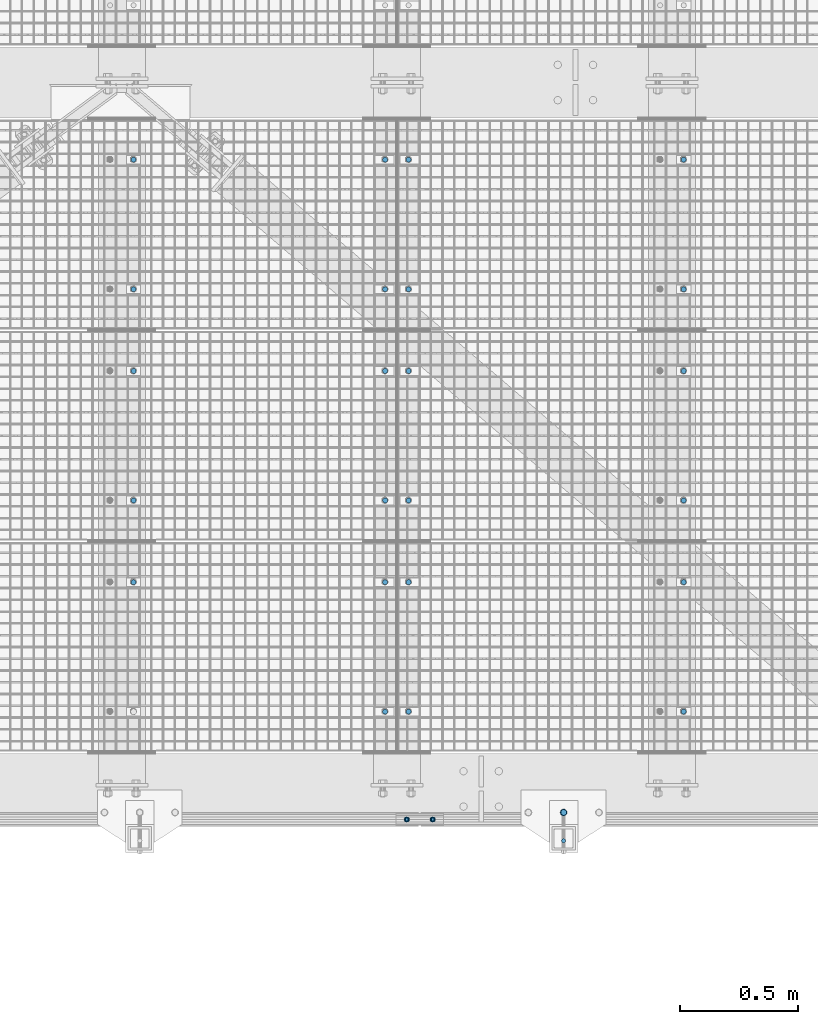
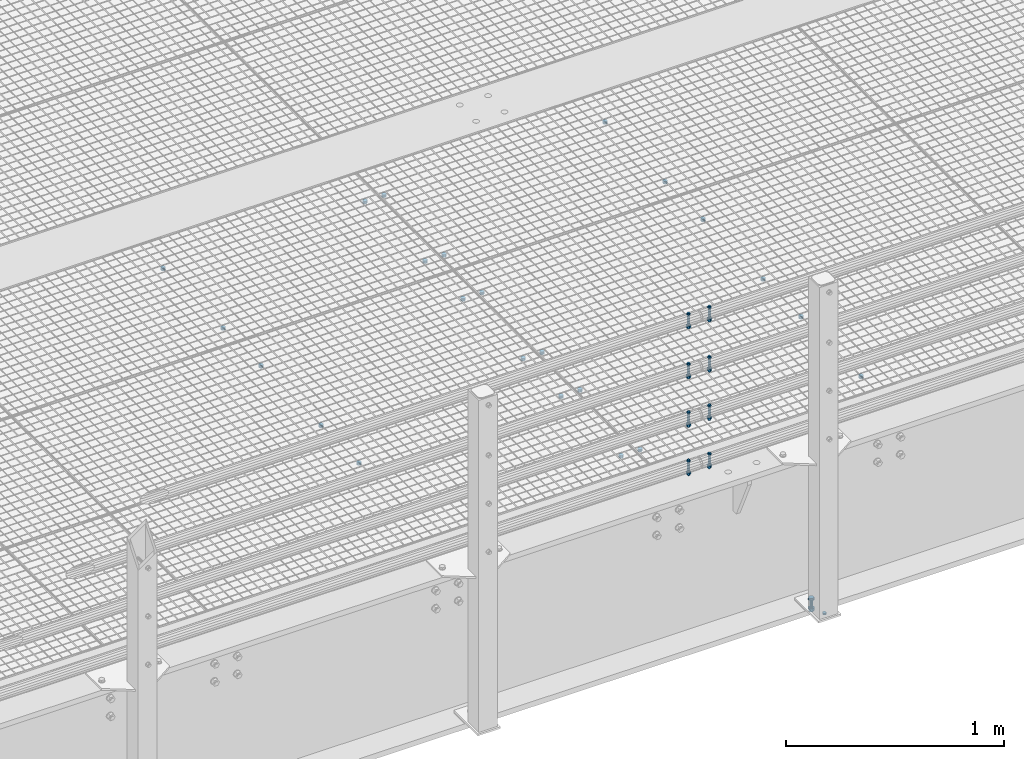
# One storey, part 63 of 1530: 33 mechanical fasteners.
"""IFC2X3 building model written with IfcOpenShell, lengths in millimetres."""

from ifc_helpers import new_model, si_unit, frame, origin_with_axes, place, context, subcontext, project, spatial, faceted_brep, source, transform, mapped, material, type_object, element, save


model = new_model("IFC2X3")

# Units and contexts
model_context = context("Model", 3, precision=1e-05, world=origin_with_axes())
body_context = subcontext(model_context, "Body", "Model", "MODEL_VIEW")
ifc_project = project(units=[si_unit("LENGTHUNIT", "METRE", prefix="MILLI"), si_unit("AREAUNIT", "SQUARE_METRE"), si_unit("VOLUMEUNIT", "CUBIC_METRE"), si_unit("MASSUNIT", "GRAM", prefix="KILO"), si_unit("TIMEUNIT", "SECOND"), si_unit("PLANEANGLEUNIT", "RADIAN"), si_unit("SOLIDANGLEUNIT", "STERADIAN"), si_unit("THERMODYNAMICTEMPERATUREUNIT", "DEGREE_CELSIUS"), si_unit("LUMINOUSINTENSITYUNIT", "LUMEN")], contexts=[model_context])

# Site, building, storey
site_placement = place(None, origin_with_axes())
site = spatial("IfcSite", under=ifc_project, at=site_placement, Name="Brattvåg", CompositionType="ELEMENT")
building_placement = place(site_placement, origin_with_axes())
building = spatial("IfcBuilding", under=site, at=building_placement, Name="Undefined", CompositionType="ELEMENT")
storey_placement = place(building_placement, origin_with_axes())
storey = spatial("IfcBuildingStorey", under=building, at=storey_placement, Name="Undefined", CompositionType="ELEMENT", Elevation=0.0)

# Mechanical fasteners
ifc_material = material(Name="8")
mechanical_fastener_type = type_object("IfcMechanicalFastenerType", Name="Bolt assembly")
shared_shape_1 = source(origin_with_axes(), body_context, "Body", "Brep", [
    faceted_brep([(11.0, -4.99999999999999, 0.0), (9.52627944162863, -4.99999999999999, 5.50000000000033), (5.49999999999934, -4.99999999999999, 9.5262794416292), (-1.13996957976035e-12, -4.99999999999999, 11.0), (-5.50000000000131, -4.99999999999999, 9.52627944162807), (-9.52627944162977, -4.99999999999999, 5.49999999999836), (-11.0, -4.99999999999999, -2.27993915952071e-12), (-9.5262794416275, -4.99999999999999, -5.5000000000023), (-5.49999999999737, -4.99999999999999, -9.52627944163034), (3.40769628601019e-12, -4.99999999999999, -11.0), (5.50000000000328, -4.99999999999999, -9.52627944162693), (9.52627944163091, -4.99999999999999, -5.49999999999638), (9.52627944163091, 10.1, -5.49999999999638), (5.50000000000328, 10.1, -9.52627944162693), (3.40769628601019e-12, 10.1, -11.0), (-5.49999999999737, 10.1, -9.52627944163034), (-9.5262794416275, 10.1, -5.5000000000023), (-11.0, 10.1, -2.27993915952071e-12), (-9.52627944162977, 10.1, 5.49999999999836), (-5.50000000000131, 10.1, 9.52627944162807), (-1.13996957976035e-12, 10.1, 11.0), (5.49999999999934, 10.1, 9.5262794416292), (9.52627944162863, 10.1, 5.50000000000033), (11.0, 10.1, 0.0)], [[[0, 1, 2, 3, 4, 5, 6, 7, 8, 9, 10, 11]], [[12, 13, 14, 15, 16, 17, 18, 19, 20, 21, 22, 23]], [[0, 23, 22, 1]], [[1, 22, 21, 2]], [[2, 21, 20, 3]], [[3, 20, 19, 4]], [[4, 19, 18, 5]], [[5, 18, 17, 6]], [[6, 17, 16, 7]], [[7, 16, 15, 8]], [[8, 15, 14, 9]], [[9, 14, 13, 10]], [[10, 13, 12, 11]], [[11, 12, 23, 0]]]),
])
for number, where, z_axis, x_axis, name in (
    (1, (5292.00477935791, 2121.98931152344, -35.0), (0.0, 1.0, 0.0), (1.0, 0.0, 0.0), "Bolt assembly"),
    (2, (5292.00477935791, 2671.99411010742, -35.0), (0.0, 1.0, 0.0), (1.0, 0.0, 0.0), "Bolt assembly"),
    (3, (6460.01456069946, 2671.99565124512, -35.0), (0.0, -1.0, 0.0), (-1.0, 1.99999855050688e-09, 0.0), "Bolt assembly"),
    (4, (6460.01192543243, 2121.99, -35.0), (0.0, -1.0, 0.0), (-1.0, 1.99999855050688e-09, 0.0), "Bolt assembly"),
    (5, (5292.00477935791, 1224.98931152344, -35.0), (0.0, 1.0, 0.0), (1.0, 0.0, 0.0), "Bolt assembly"),
    (6, (5292.00477935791, 1774.99411010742, -35.0), (0.0, 1.0, 0.0), (1.0, 0.0, 0.0), "Bolt assembly"),
    (7, (6460.01456069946, 1774.99565124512, -35.0), (0.0, -1.0, 0.0), (-1.0, 1.99999855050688e-09, 0.0), "Bolt assembly"),
    (8, (6460.01192543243, 1224.99, -35.0), (0.0, -1.0, 0.0), (-1.0, 1.99999855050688e-09, 0.0), "Bolt assembly"),
    (9, (5292.00477935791, 327.989311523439, -35.0), (0.0, 1.0, 0.0), (1.0, 0.0, 0.0), "Bolt assembly"),
    (10, (5292.00477935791, 877.994110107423, -35.0), (0.0, 1.0, 0.0), (1.0, 0.0, 0.0), "Bolt assembly"),
    (11, (6460.01456069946, 877.995651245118, -35.0), (0.0, -1.0, 0.0), (-1.0, 1.99999855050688e-09, 0.0), "Bolt assembly"),
    (12, (6460.01192543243, 327.99, -35.0), (0.0, -1.0, 0.0), (-1.0, 1.99999855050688e-09, 0.0), "Bolt assembly"),
    (13, (5192.01487731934, 2671.99411010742, -35.0), (0.0, -1.0, 0.0), (-1.0, 1.99999855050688e-09, 0.0), "Bolt assembly"),
    (14, (5192.01487731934, 2121.9904864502, -35.0), (0.0, -1.0, 0.0), (-1.0, 1.99999855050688e-09, 0.0), "Bolt assembly"),
    (15, (4124.01456069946, 2671.99565124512, -35.0), (0.0, -1.0, 0.0), (-1.0, 1.99999855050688e-09, 0.0), "Bolt assembly"),
    (16, (4124.01192543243, 2121.99, -35.0), (0.0, -1.0, 0.0), (-1.0, 1.99999855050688e-09, 0.0), "Bolt assembly"),
    (17, (5192.01487731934, 1774.99411010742, -35.0), (0.0, -1.0, 0.0), (-1.0, 1.99999855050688e-09, 0.0), "Bolt assembly"),
    (18, (5192.01487731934, 1224.9904864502, -35.0), (0.0, -1.0, 0.0), (-1.0, 1.99999855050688e-09, 0.0), "Bolt assembly"),
    (19, (4124.01456069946, 1774.99565124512, -35.0), (0.0, -1.0, 0.0), (-1.0, 1.99999855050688e-09, 0.0), "Bolt assembly"),
    (20, (4124.01192543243, 1224.99, -35.0), (0.0, -1.0, 0.0), (-1.0, 1.99999855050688e-09, 0.0), "Bolt assembly"),
    (21, (5192.01487731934, 877.994110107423, -35.0), (0.0, -1.0, 0.0), (-1.0, 1.99999855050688e-09, 0.0), "Bolt assembly"),
    (22, (5192.01487731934, 327.990486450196, -35.0), (0.0, -1.0, 0.0), (-1.0, 1.99999855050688e-09, 0.0), "Bolt assembly"),
    (23, (4124.01456069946, 877.995651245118, -35.0), (0.0, -1.0, 0.0), (-1.0, 1.99999855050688e-09, 0.0), "Bolt assembly"),
):
    element("IfcMechanicalFastener", number, at=place(storey_placement, frame(where, z_axis=z_axis, x_axis=x_axis)), inside=storey, type_object=mechanical_fastener_type, material=ifc_material, Name=name, NominalDiameter=20.0, NominalLength=15.0, context=body_context, shape_type="MappedRepresentation", body=[
        mapped(shared_shape_1, transform((0.0, 0.0, 0.0))),
    ])
shared_shape_2 = source(origin_with_axes(), body_context, "Body", "Brep", [
    faceted_brep([(9.0, -0.000108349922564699, 0.0), (7.79422863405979, -0.000108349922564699, 4.50000000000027), (4.49999999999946, -0.000108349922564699, 7.79422863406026), (-9.3270238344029e-13, -0.000108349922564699, 9.0), (-4.50000000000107, -0.000108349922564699, 7.79422863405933), (-7.79422863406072, -0.000108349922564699, 4.49999999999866), (-9.0, -0.000108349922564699, -1.86540476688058e-12), (-7.79422863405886, -0.000108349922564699, -4.50000000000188), (-4.49999999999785, -0.000108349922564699, -7.79422863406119), (2.78811514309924e-12, -0.000108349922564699, -9.0), (4.50000000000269, -0.000108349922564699, -7.7942286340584), (7.79422863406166, -0.000108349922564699, -4.49999999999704), (7.79422863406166, 10.0998916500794, -4.49999999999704), (4.50000000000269, 10.0998916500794, -7.7942286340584), (2.78811514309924e-12, 10.0998916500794, -9.0), (-4.49999999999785, 10.0998916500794, -7.79422863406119), (-7.79422863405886, 10.0998916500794, -4.50000000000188), (-9.0, 10.0998916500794, -1.86540476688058e-12), (-7.79422863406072, 10.0998916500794, 4.49999999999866), (-4.50000000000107, 10.0998916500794, 7.79422863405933), (-9.3270238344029e-13, 10.0998916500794, 9.0), (4.49999999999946, 10.0998916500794, 7.79422863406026), (7.79422863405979, 10.0998916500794, 4.50000000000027), (9.0, 10.0998916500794, 0.0)], [[[0, 1, 2, 3, 4, 5, 6, 7, 8, 9, 10, 11]], [[12, 13, 14, 15, 16, 17, 18, 19, 20, 21, 22, 23]], [[0, 23, 22, 1]], [[1, 22, 21, 2]], [[2, 21, 20, 3]], [[3, 20, 19, 4]], [[4, 19, 18, 5]], [[5, 18, 17, 6]], [[6, 17, 16, 7]], [[7, 16, 15, 8]], [[8, 15, 14, 9]], [[9, 14, 13, 10]], [[10, 13, 12, 11]], [[11, 12, 23, 0]]]),
])
mechanical_fastener_1_placement = place(storey_placement, frame((5950.00016021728, -219.999950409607, -845.000278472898), z_axis=(-1.0, 1.99999855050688e-09, 0.0), x_axis=(0.0, 0.999999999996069, 2.80400000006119e-06)))
element("IfcMechanicalFastener", 24, at=mechanical_fastener_1_placement, inside=storey, type_object=mechanical_fastener_type, material=ifc_material, Name="Bolt assembly", NominalDiameter=16.0, NominalLength=10.0001087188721, context=body_context, shape_type="MappedRepresentation", body=[
    mapped(shared_shape_2, transform((0.0, 0.0, 0.0))),
])
shared_shape_3 = source(origin_with_axes(), body_context, "Body", "Brep", [
    faceted_brep([(6.49435320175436, -7.50000000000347, 0.0), (4.59220118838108, -7.50000000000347, 4.59220118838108), (3.97664443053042e-16, -7.50000000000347, 6.49435320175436), (-4.59220118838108, -7.50000000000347, 4.59220118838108), (-6.49435320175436, -7.50000000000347, 7.95328886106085e-16), (-4.59220118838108, -7.50000000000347, -4.59220118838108), (-1.19299332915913e-15, -7.50000000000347, -6.49435320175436), (4.59220118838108, -7.50000000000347, -4.59220118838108), (7.34846922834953, -3.46744855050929e-12, -7.34846922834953), (-1.90903542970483e-15, -3.46744855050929e-12, -10.3923048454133), (-7.34846922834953, -3.46744855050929e-12, -7.34846922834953), (-10.3923048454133, 3.46808519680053e-07, 1.27269028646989e-15), (-7.34846922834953, -3.46744855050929e-12, 7.34846922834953), (6.36345143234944e-16, -3.46744855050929e-12, 10.3923048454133), (7.34846922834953, -3.46744855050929e-12, 7.34846922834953), (10.3923048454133, 3.46808519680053e-07, 0.0), (6.0, 3.46808519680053e-07, 0.0), (5.19615242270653, 3.46808519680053e-07, 3.00000000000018), (2.99999999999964, 3.46808519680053e-07, 5.19615242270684), (-6.21801588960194e-13, 3.46808519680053e-07, 6.0), (-3.00000000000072, 3.46808519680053e-07, 5.19615242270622), (-5.19615242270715, 3.46808519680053e-07, 2.9999999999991), (-6.0, 3.46808519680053e-07, -1.24360317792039e-12), (-5.19615242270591, 3.46808519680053e-07, -3.00000000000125), (-2.99999999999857, 3.46808519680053e-07, -5.19615242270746), (1.85874342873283e-12, 3.46808519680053e-07, -6.0), (3.00000000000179, 3.46808519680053e-07, -5.1961524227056), (5.19615242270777, 3.46808519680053e-07, -2.99999999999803), (5.19615242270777, 79.9999999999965, -2.99999999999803), (3.00000000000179, 79.9999999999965, -5.1961524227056), (1.85874342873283e-12, 79.9999999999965, -6.0), (-2.99999999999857, 79.9999999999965, -5.19615242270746), (-5.19615242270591, 79.9999999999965, -3.00000000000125), (-6.0, 79.9999999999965, -1.24360317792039e-12), (-5.19615242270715, 79.9999999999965, 2.9999999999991), (-3.00000000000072, 79.9999999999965, 5.19615242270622), (-6.21801588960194e-13, 79.9999999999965, 6.0), (2.99999999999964, 79.9999999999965, 5.19615242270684), (5.19615242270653, 79.9999999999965, 3.00000000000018), (6.0, 79.9999999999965, 0.0), (12.0, 60.2988956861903, 0.0), (10.3923048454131, 60.2988956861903, 6.00000000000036), (5.99999999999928, 60.2988956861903, 10.3923048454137), (-1.24360317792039e-12, 60.2988956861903, 12.0), (-6.00000000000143, 60.2988956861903, 10.3923048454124), (-10.3923048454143, 60.2988956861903, 5.99999999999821), (-12.0, 60.2988956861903, -2.48720635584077e-12), (-10.3923048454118, 60.2988956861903, -6.00000000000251), (-5.99999999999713, 60.2988956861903, -10.3923048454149), (3.71748685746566e-12, 60.2988956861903, -12.0), (6.00000000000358, 60.2988956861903, -10.3923048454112), (10.3923048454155, 60.2988956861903, -5.99999999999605), (10.3923048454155, 62.7988956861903, -5.99999999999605), (6.00000000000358, 62.7988956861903, -10.3923048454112), (3.71748685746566e-12, 62.7988956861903, -12.0), (-5.99999999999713, 62.7988956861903, -10.3923048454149), (-10.3923048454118, 62.7988956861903, -6.00000000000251), (-12.0, 62.7988956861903, -2.48720635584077e-12), (-10.3923048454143, 62.7988956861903, 5.99999999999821), (-6.00000000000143, 62.7988956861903, 10.3923048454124), (-1.24360317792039e-12, 62.7988956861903, 12.0), (5.99999999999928, 62.7988956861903, 10.3923048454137), (10.3923048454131, 62.7988956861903, 6.00000000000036), (12.0, 62.7988956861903, 0.0), (10.9696551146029, 62.7988956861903, 0.0), (5.48482755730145, 62.7988956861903, 9.5), (-5.48482755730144, 62.7988956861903, 9.5), (-10.9696551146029, 62.7988956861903, 1.34339530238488e-15), (-5.48482755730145, 62.7988956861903, -9.5), (5.48482755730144, 62.7988956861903, -9.5), (5.48482755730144, 73.5988958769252, -9.5), (-5.48482755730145, 73.5988958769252, -9.5), (-10.9696551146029, 73.5988958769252, 1.34339530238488e-15), (-5.48482755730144, 73.5988958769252, 9.5), (5.48482755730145, 73.5988958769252, 9.5), (10.9696551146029, 73.5988958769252, 0.0)], [[[0, 1, 2, 3, 4, 5, 6, 7]], [[8, 9, 10, 11, 12, 13, 14, 15]], [[0, 15, 14, 1]], [[1, 14, 13, 2]], [[2, 13, 12, 3]], [[3, 12, 11, 4]], [[4, 11, 10, 5]], [[5, 10, 9, 6]], [[6, 9, 8, 7]], [[7, 8, 15, 0]], [[16, 17, 18, 19, 20, 21, 22, 23, 24, 25, 26, 27]], [[28, 29, 30, 31, 32, 33, 34, 35, 36, 37, 38, 39]], [[16, 39, 38, 17]], [[17, 38, 37, 18]], [[18, 37, 36, 19]], [[19, 36, 35, 20]], [[20, 35, 34, 21]], [[21, 34, 33, 22]], [[22, 33, 32, 23]], [[23, 32, 31, 24]], [[24, 31, 30, 25]], [[25, 30, 29, 26]], [[26, 29, 28, 27]], [[27, 28, 39, 16]], [[40, 41, 42, 43, 44, 45, 46, 47, 48, 49, 50, 51]], [[52, 53, 54, 55, 56, 57, 58, 59, 60, 61, 62, 63]], [[40, 63, 62, 41]], [[41, 62, 61, 42]], [[42, 61, 60, 43]], [[43, 60, 59, 44]], [[44, 59, 58, 45]], [[45, 58, 57, 46]], [[46, 57, 56, 47]], [[47, 56, 55, 48]], [[48, 55, 54, 49]], [[49, 54, 53, 50]], [[50, 53, 52, 51]], [[51, 52, 63, 40]], [[64, 65, 66, 67, 68, 69]], [[70, 71, 72, 73, 74, 75]], [[64, 75, 74, 65]], [[65, 74, 73, 66]], [[66, 73, 72, 67]], [[67, 72, 71, 68]], [[68, 71, 70, 69]], [[69, 70, 75, 64]]]),
    faceted_brep([(6.5, 0.100000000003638, 0.0), (5.62916512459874, 0.100000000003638, 3.25000000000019), (3.24999999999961, 0.100000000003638, 5.62916512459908), (-6.7361838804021e-13, 0.100000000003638, 6.5), (-3.25000000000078, 0.100000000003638, 5.6291651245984), (-5.62916512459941, 0.100000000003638, 3.24999999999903), (-6.5, 0.100000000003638, -1.34723677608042e-12), (-5.62916512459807, 0.100000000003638, -3.25000000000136), (-3.24999999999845, 0.100000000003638, -5.62916512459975), (2.01363871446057e-12, 0.100000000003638, -6.5), (3.25000000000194, 0.100000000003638, -5.62916512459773), (5.62916512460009, 0.100000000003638, -3.24999999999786), (5.62916512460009, 60.3988956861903, -3.24999999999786), (3.25000000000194, 60.3988956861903, -5.62916512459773), (2.01363871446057e-12, 60.3988956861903, -6.5), (-3.24999999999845, 60.3988956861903, -5.62916512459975), (-5.62916512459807, 60.3988956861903, -3.25000000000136), (-6.5, 60.3988956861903, -1.34723677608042e-12), (-5.62916512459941, 60.3988956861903, 3.24999999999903), (-3.25000000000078, 60.3988956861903, 5.6291651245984), (-6.7361838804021e-13, 60.3988956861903, 6.5), (3.24999999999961, 60.3988956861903, 5.62916512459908), (5.62916512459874, 60.3988956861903, 3.25000000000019), (6.5, 60.3988956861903, 0.0), (6.5, 4.25026510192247, 0.0), (5.62916512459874, 4.25026510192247, 3.25000000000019), (3.24999999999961, 4.25026510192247, 5.62916512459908), (-6.7361838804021e-13, 4.25026510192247, 6.5), (-3.25000000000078, 4.25026510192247, 5.6291651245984), (-5.62916512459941, 4.25026510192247, 3.24999999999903), (-6.5, 4.25026510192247, -1.34723677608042e-12), (-5.62916512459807, 4.25026510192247, -3.25000000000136), (-3.24999999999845, 4.25026510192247, -5.62916512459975), (2.01363871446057e-12, 4.25026510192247, -6.5), (3.25000000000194, 4.25026510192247, -5.62916512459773), (5.62916512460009, 4.25026510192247, -3.24999999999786), (5.62916512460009, 55.3491717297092, -3.24999999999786), (3.25000000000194, 55.3491717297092, -5.62916512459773), (2.01363871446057e-12, 55.3491717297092, -6.5), (-3.24999999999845, 55.3491717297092, -5.62916512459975), (-5.62916512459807, 55.3491717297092, -3.25000000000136), (-6.5, 55.3491717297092, -1.34723677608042e-12), (-5.62916512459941, 55.3491717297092, 3.24999999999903), (-3.25000000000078, 55.3491717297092, 5.6291651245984), (-6.7361838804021e-13, 55.3491717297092, 6.5), (3.24999999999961, 55.3491717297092, 5.62916512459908), (5.62916512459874, 55.3491717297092, 3.25000000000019), (6.5, 55.3491717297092, 0.0)], [[[0, 1, 2, 3, 4, 5, 6, 7, 8, 9, 10, 11]], [[12, 13, 14, 15, 16, 17, 18, 19, 20, 21, 22, 23]], [[0, 23, 22, 1]], [[1, 22, 21, 2]], [[2, 21, 20, 3]], [[3, 20, 19, 4]], [[4, 19, 18, 5]], [[5, 18, 17, 6]], [[6, 17, 16, 7]], [[7, 16, 15, 8]], [[8, 15, 14, 9]], [[9, 14, 13, 10]], [[10, 13, 12, 11]], [[11, 12, 23, 0]], [[24, 25, 26, 27, 28, 29, 30, 31, 32, 33, 34, 35]], [[36, 37, 38, 39, 40, 41, 42, 43, 44, 45, 46, 47]], [[24, 47, 46, 25]], [[25, 46, 45, 26]], [[26, 45, 44, 27]], [[27, 44, 43, 28]], [[28, 43, 42, 29]], [[29, 42, 41, 30]], [[30, 41, 40, 31]], [[31, 40, 39, 32]], [[32, 39, 38, 33]], [[33, 38, 37, 34]], [[34, 37, 36, 35]], [[35, 36, 47, 24]]]),
])
for number, where, z_axis, x_axis, name in (
    (25, (5284.00013732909, -129.849880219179, 179.7000579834), (-1.0, 1.99999855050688e-09, 0.0), (0.0, 0.999999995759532, -9.2091999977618e-05), "Bolt assembly"),
    (26, (5284.00013732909, -129.849880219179, 449.7000579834), (-1.0, 1.99999855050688e-09, 0.0), (0.0, 0.999999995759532, -9.2091999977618e-05), "Bolt assembly"),
    (27, (5284.00013732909, -129.849880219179, 719.7000579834), (-1.0, 1.99999855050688e-09, 0.0), (0.0, 0.999999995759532, -9.2091999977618e-05), "Bolt assembly"),
    (28, (5393.99986267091, -129.849880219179, 179.7000579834), (-1.0, 1.99999855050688e-09, 0.0), (0.0, 0.999999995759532, -9.2091999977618e-05), "Bolt assembly"),
    (29, (5393.99986267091, -129.849880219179, 449.7000579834), (-1.0, 1.99999855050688e-09, 0.0), (0.0, 0.999999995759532, -9.2091999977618e-05), "Bolt assembly"),
    (30, (5393.99986267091, -129.849880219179, 719.7000579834), (-1.0, 1.99999855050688e-09, 0.0), (0.0, 0.999999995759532, -9.2091999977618e-05), "Bolt assembly"),
    (31, (5284.00013732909, -129.849880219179, 999.7000579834), (-1.0, 1.99999855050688e-09, 0.0), (0.0, 0.999999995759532, -9.2091999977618e-05), "Bolt assembly"),
    (32, (5393.99986267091, -129.849880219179, 999.7000579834), (-1.0, 1.99999855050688e-09, 0.0), (0.0, 0.999999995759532, -9.2091999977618e-05), "Bolt assembly"),
):
    element("IfcMechanicalFastener", number, at=place(storey_placement, frame(where, z_axis=z_axis, x_axis=x_axis)), inside=storey, type_object=mechanical_fastener_type, material=ifc_material, Name=name, NominalDiameter=12.0, NominalLength=80.0, context=body_context, shape_type="MappedRepresentation", body=[
        mapped(shared_shape_3, transform((0.0, 0.0, 0.0))),
    ])
shared_shape_4 = source(origin_with_axes(), body_context, "Body", "Brep", [
    faceted_brep([(13.856406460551, -12.9998916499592, 0.0), (6.92820323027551, -12.9998916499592, 12.0), (-6.92820323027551, -12.9998916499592, 12.0), (-13.856406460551, -12.9998916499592, 1.69692038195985e-15), (-6.92820323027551, -12.9998916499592, -12.0), (6.9282032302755, -12.9998916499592, -12.0), (6.9282032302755, -2.99989164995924, -12.0), (-6.92820323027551, -2.99989164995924, -12.0), (-13.856406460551, -2.99989164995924, 1.69692038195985e-15), (-6.92820323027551, -2.99989164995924, 12.0), (6.92820323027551, -2.99989164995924, 12.0), (13.856406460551, -2.99989164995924, 0.0), (8.0, -2.99989164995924, 0.0), (6.92820323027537, -2.99989164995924, 4.00000000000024), (3.99999999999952, -2.99989164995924, 6.92820323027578), (-8.29068785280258e-13, -2.99989164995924, 8.0), (-4.00000000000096, -2.99989164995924, 6.92820323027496), (-6.9282032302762, -2.99989164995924, 3.99999999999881), (-8.0, -2.99989164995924, -1.65813757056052e-12), (-6.92820323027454, -2.99989164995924, -4.00000000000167), (-3.99999999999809, -2.99989164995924, -6.92820323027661), (2.47832457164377e-12, -2.99989164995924, -8.0), (4.00000000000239, -2.99989164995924, -6.92820323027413), (6.92820323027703, -2.99989164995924, -3.99999999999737), (6.92820323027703, 67.0001083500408, -3.99999999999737), (4.00000000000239, 67.0001083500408, -6.92820323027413), (2.47832457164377e-12, 67.0001083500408, -8.0), (-3.99999999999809, 67.0001083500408, -6.92820323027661), (-6.92820323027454, 67.0001083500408, -4.00000000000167), (-8.0, 67.0001083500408, -1.65813757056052e-12), (-6.9282032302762, 67.0001083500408, 3.99999999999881), (-4.00000000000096, 67.0001083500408, 6.92820323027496), (-8.29068785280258e-13, 67.0001083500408, 8.0), (3.99999999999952, 67.0001083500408, 6.92820323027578), (6.92820323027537, 67.0001083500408, 4.00000000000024), (8.0, 67.0001083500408, 0.0), (15.0, -2.99989164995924, 0.0), (12.9903810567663, -2.99989164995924, 7.50000000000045), (7.4999999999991, -2.99989164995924, 12.9903810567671), (-1.55450397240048e-12, -2.99989164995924, 15.0), (-7.50000000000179, -2.99989164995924, 12.9903810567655), (-12.9903810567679, -2.99989164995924, 7.49999999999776), (-15.0, -2.99989164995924, -3.10900794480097e-12), (-12.9903810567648, -2.99989164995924, -7.50000000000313), (-7.49999999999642, -2.99989164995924, -12.9903810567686), (4.64685857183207e-12, -2.99989164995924, -15.0), (7.50000000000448, -2.99989164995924, -12.990381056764), (12.9903810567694, -2.99989164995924, -7.49999999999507), (12.9903810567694, 0.000108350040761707, -7.49999999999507), (7.50000000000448, 0.000108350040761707, -12.990381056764), (4.64685857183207e-12, 0.000108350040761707, -15.0), (-7.49999999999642, 0.000108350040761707, -12.9903810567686), (-12.9903810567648, 0.000108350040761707, -7.50000000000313), (-15.0, 0.000108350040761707, -3.10900794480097e-12), (-12.9903810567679, 0.000108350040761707, 7.49999999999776), (-7.50000000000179, 0.000108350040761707, 12.9903810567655), (-1.55450397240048e-12, 0.000108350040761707, 15.0), (7.4999999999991, 0.000108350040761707, 12.9903810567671), (12.9903810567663, 0.000108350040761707, 7.50000000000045), (15.0, 0.000108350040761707, 0.0), (15.0, 45.0001982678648, 0.0), (12.9903810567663, 45.0001982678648, 7.50000000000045), (7.4999999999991, 45.0001982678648, 12.9903810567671), (-1.55450397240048e-12, 45.0001982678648, 15.0), (-7.50000000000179, 45.0001982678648, 12.9903810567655), (-12.9903810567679, 45.0001982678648, 7.49999999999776), (-15.0, 45.0001982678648, -3.10900794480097e-12), (-12.9903810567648, 45.0001982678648, -7.50000000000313), (-7.49999999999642, 45.0001982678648, -12.9903810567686), (4.64685857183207e-12, 45.0001982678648, -15.0), (7.50000000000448, 45.0001982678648, -12.990381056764), (12.9903810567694, 45.0001982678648, -7.49999999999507), (12.9903810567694, 48.0001982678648, -7.49999999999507), (7.50000000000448, 48.0001982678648, -12.990381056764), (4.64685857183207e-12, 48.0001982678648, -15.0), (-7.49999999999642, 48.0001982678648, -12.9903810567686), (-12.9903810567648, 48.0001982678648, -7.50000000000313), (-15.0, 48.0001982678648, -3.10900794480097e-12), (-12.9903810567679, 48.0001982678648, 7.49999999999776), (-7.50000000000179, 48.0001982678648, 12.9903810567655), (-1.55450397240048e-12, 48.0001982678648, 15.0), (7.4999999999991, 48.0001982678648, 12.9903810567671), (12.9903810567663, 48.0001982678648, 7.50000000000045), (15.0, 48.0001982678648, 0.0), (13.856406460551, 48.0001982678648, 0.0), (6.92820323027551, 48.0001982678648, 12.0), (-6.92820323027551, 48.0001982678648, 12.0), (-13.856406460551, 48.0001982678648, 1.69692038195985e-15), (-6.92820323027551, 48.0001982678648, -12.0), (6.9282032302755, 48.0001982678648, -12.0), (6.9282032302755, 62.8001984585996, -12.0), (-6.92820323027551, 62.8001984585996, -12.0), (-13.856406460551, 62.8001984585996, 1.69692038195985e-15), (-6.92820323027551, 62.8001984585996, 12.0), (6.92820323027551, 62.8001984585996, 12.0), (13.856406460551, 62.8001984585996, 0.0)], [[[0, 1, 2, 3, 4, 5]], [[6, 7, 8, 9, 10, 11]], [[0, 11, 10, 1]], [[1, 10, 9, 2]], [[2, 9, 8, 3]], [[3, 8, 7, 4]], [[4, 7, 6, 5]], [[5, 6, 11, 0]], [[12, 13, 14, 15, 16, 17, 18, 19, 20, 21, 22, 23]], [[24, 25, 26, 27, 28, 29, 30, 31, 32, 33, 34, 35]], [[12, 35, 34, 13]], [[13, 34, 33, 14]], [[14, 33, 32, 15]], [[15, 32, 31, 16]], [[16, 31, 30, 17]], [[17, 30, 29, 18]], [[18, 29, 28, 19]], [[19, 28, 27, 20]], [[20, 27, 26, 21]], [[21, 26, 25, 22]], [[22, 25, 24, 23]], [[23, 24, 35, 12]], [[36, 37, 38, 39, 40, 41, 42, 43, 44, 45, 46, 47]], [[48, 49, 50, 51, 52, 53, 54, 55, 56, 57, 58, 59]], [[36, 59, 58, 37]], [[37, 58, 57, 38]], [[38, 57, 56, 39]], [[39, 56, 55, 40]], [[40, 55, 54, 41]], [[41, 54, 53, 42]], [[42, 53, 52, 43]], [[43, 52, 51, 44]], [[44, 51, 50, 45]], [[45, 50, 49, 46]], [[46, 49, 48, 47]], [[47, 48, 59, 36]], [[60, 61, 62, 63, 64, 65, 66, 67, 68, 69, 70, 71]], [[72, 73, 74, 75, 76, 77, 78, 79, 80, 81, 82, 83]], [[60, 83, 82, 61]], [[61, 82, 81, 62]], [[62, 81, 80, 63]], [[63, 80, 79, 64]], [[64, 79, 78, 65]], [[65, 78, 77, 66]], [[66, 77, 76, 67]], [[67, 76, 75, 68]], [[68, 75, 74, 69]], [[69, 74, 73, 70]], [[70, 73, 72, 71]], [[71, 72, 83, 60]], [[84, 85, 86, 87, 88, 89]], [[90, 91, 92, 93, 94, 95]], [[84, 95, 94, 85]], [[85, 94, 93, 86]], [[86, 93, 92, 87]], [[87, 92, 91, 88]], [[88, 91, 90, 89]], [[89, 90, 95, 84]]]),
    faceted_brep([(9.0, 0.100108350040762, 0.0), (7.79422863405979, 0.100108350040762, 4.50000000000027), (4.49999999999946, 0.100108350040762, 7.79422863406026), (-9.3270238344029e-13, 0.100108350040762, 9.0), (-4.50000000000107, 0.100108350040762, 7.79422863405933), (-7.79422863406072, 0.100108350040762, 4.49999999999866), (-9.0, 0.100108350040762, -1.86540476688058e-12), (-7.79422863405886, 0.100108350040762, -4.50000000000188), (-4.49999999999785, 0.100108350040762, -7.79422863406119), (2.78811514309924e-12, 0.100108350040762, -9.0), (4.50000000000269, 0.100108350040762, -7.7942286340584), (7.79422863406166, 0.100108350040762, -4.49999999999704), (7.79422863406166, 10.10010835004, -4.49999999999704), (4.50000000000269, 10.10010835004, -7.7942286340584), (2.78811514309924e-12, 10.10010835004, -9.0), (-4.49999999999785, 10.10010835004, -7.79422863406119), (-7.79422863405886, 10.10010835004, -4.50000000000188), (-9.0, 10.10010835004, -1.86540476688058e-12), (-7.79422863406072, 10.10010835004, 4.49999999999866), (-4.50000000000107, 10.10010835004, 7.79422863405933), (-9.3270238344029e-13, 10.10010835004, 9.0), (4.49999999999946, 10.10010835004, 7.79422863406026), (7.79422863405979, 10.10010835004, 4.50000000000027), (9.0, 10.10010835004, 0.0), (9.0, 10.0002383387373, 0.0), (7.79422863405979, 10.0002383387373, 4.50000000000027), (4.49999999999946, 10.0002383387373, 7.79422863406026), (-9.3270238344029e-13, 10.0002383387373, 9.0), (-4.50000000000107, 10.0002383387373, 7.79422863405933), (-7.79422863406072, 10.0002383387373, 4.49999999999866), (-9.0, 10.0002383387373, -1.86540476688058e-12), (-7.79422863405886, 10.0002383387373, -4.50000000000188), (-4.49999999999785, 10.0002383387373, -7.79422863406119), (2.78811514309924e-12, 10.0002383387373, -9.0), (4.50000000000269, 10.0002383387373, -7.7942286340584), (7.79422863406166, 10.0002383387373, -4.49999999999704), (7.79422863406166, 15.000238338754, -4.49999999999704), (4.50000000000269, 15.000238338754, -7.7942286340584), (2.78811514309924e-12, 15.000238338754, -9.0), (-4.49999999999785, 15.000238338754, -7.79422863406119), (-7.79422863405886, 15.000238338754, -4.50000000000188), (-9.0, 15.000238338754, -1.86540476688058e-12), (-7.79422863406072, 15.000238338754, 4.49999999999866), (-4.50000000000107, 15.000238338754, 7.79422863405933), (-9.3270238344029e-13, 15.000238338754, 9.0), (4.49999999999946, 15.000238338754, 7.79422863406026), (7.79422863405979, 15.000238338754, 4.50000000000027), (9.0, 15.000238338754, 0.0), (9.0, 14.9001982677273, 0.0), (7.79422863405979, 14.9001982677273, 4.50000000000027), (4.49999999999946, 14.9001982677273, 7.79422863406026), (-9.3270238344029e-13, 14.9001982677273, 9.0), (-4.50000000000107, 14.9001982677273, 7.79422863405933), (-7.79422863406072, 14.9001982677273, 4.49999999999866), (-9.0, 14.9001982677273, -1.86540476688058e-12), (-7.79422863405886, 14.9001982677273, -4.50000000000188), (-4.49999999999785, 14.9001982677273, -7.79422863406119), (2.78811514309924e-12, 14.9001982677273, -9.0), (4.50000000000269, 14.9001982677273, -7.7942286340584), (7.79422863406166, 14.9001982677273, -4.49999999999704), (7.79422863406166, 45.0001982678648, -4.49999999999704), (4.50000000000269, 45.0001982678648, -7.7942286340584), (2.78811514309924e-12, 45.0001982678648, -9.0), (-4.49999999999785, 45.0001982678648, -7.79422863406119), (-7.79422863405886, 45.0001982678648, -4.50000000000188), (-9.0, 45.0001982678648, -1.86540476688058e-12), (-7.79422863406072, 45.0001982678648, 4.49999999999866), (-4.50000000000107, 45.0001982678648, 7.79422863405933), (-9.3270238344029e-13, 45.0001982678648, 9.0), (4.49999999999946, 45.0001982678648, 7.79422863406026), (7.79422863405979, 45.0001982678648, 4.50000000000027), (9.0, 45.0001982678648, 0.0)], [[[0, 1, 2, 3, 4, 5, 6, 7, 8, 9, 10, 11]], [[12, 13, 14, 15, 16, 17, 18, 19, 20, 21, 22, 23]], [[0, 23, 22, 1]], [[1, 22, 21, 2]], [[2, 21, 20, 3]], [[3, 20, 19, 4]], [[4, 19, 18, 5]], [[5, 18, 17, 6]], [[6, 17, 16, 7]], [[7, 16, 15, 8]], [[8, 15, 14, 9]], [[9, 14, 13, 10]], [[10, 13, 12, 11]], [[11, 12, 23, 0]], [[24, 25, 26, 27, 28, 29, 30, 31, 32, 33, 34, 35]], [[36, 37, 38, 39, 40, 41, 42, 43, 44, 45, 46, 47]], [[24, 47, 46, 25]], [[25, 46, 45, 26]], [[26, 45, 44, 27]], [[27, 44, 43, 28]], [[28, 43, 42, 29]], [[29, 42, 41, 30]], [[30, 41, 40, 31]], [[31, 40, 39, 32]], [[32, 39, 38, 33]], [[33, 38, 37, 34]], [[34, 37, 36, 35]], [[35, 36, 47, 24]], [[48, 49, 50, 51, 52, 53, 54, 55, 56, 57, 58, 59]], [[60, 61, 62, 63, 64, 65, 66, 67, 68, 69, 70, 71]], [[48, 71, 70, 49]], [[49, 70, 69, 50]], [[50, 69, 68, 51]], [[51, 68, 67, 52]], [[52, 67, 66, 53]], [[53, 66, 65, 54]], [[54, 65, 64, 55]], [[55, 64, 63, 56]], [[56, 63, 62, 57]], [[57, 62, 61, 58]], [[58, 61, 60, 59]], [[59, 60, 71, 48]]]),
])
mechanical_fastener_2_placement = place(storey_placement, frame((5950.00016021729, -99.9996833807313, -844.999801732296), z_axis=(1.0, 0.0, 0.0), x_axis=(0.0, -0.999999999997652, -2.16700000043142e-06)))
element("IfcMechanicalFastener", 33, at=mechanical_fastener_2_placement, inside=storey, type_object=mechanical_fastener_type, material=ifc_material, Name="Bolt assembly", NominalDiameter=16.0, NominalLength=70.0, context=body_context, shape_type="MappedRepresentation", body=[
    mapped(shared_shape_4, transform((0.0, 0.0, 0.0))),
])

save(model, "model.ifc")
